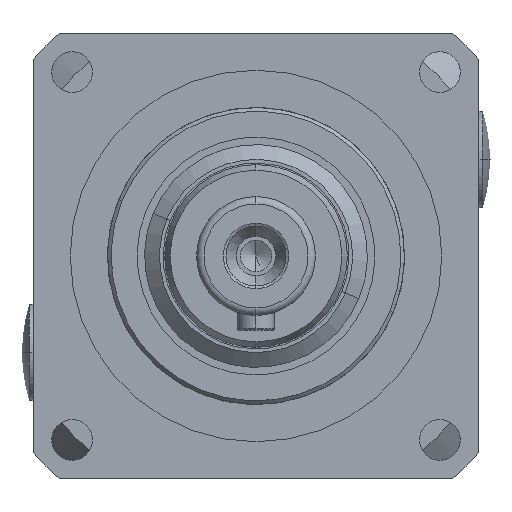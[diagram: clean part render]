
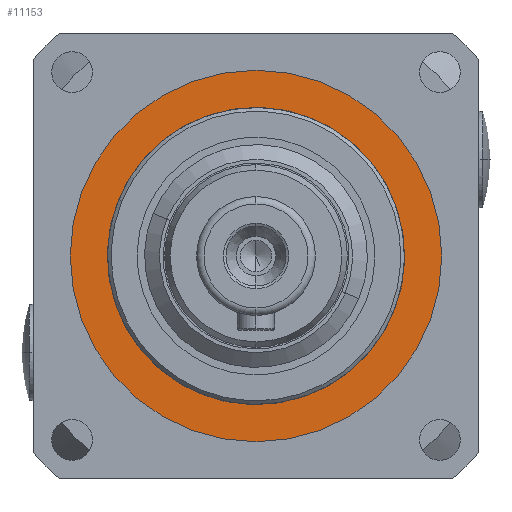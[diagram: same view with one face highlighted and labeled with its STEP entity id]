
A CAD part, left-side view. The second image highlights one B-rep face of the part: STEP entity #11153.
In plain terms, the highlighted planar face has unit normal (-1, 0, 0).
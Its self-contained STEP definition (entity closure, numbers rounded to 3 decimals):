
#76 = AXIS2_PLACEMENT_3D ( 'NONE', #8744, #1949, #9884 ) ;
#392 = CARTESIAN_POINT ( 'NONE',  ( -70., 0., 20. ) ) ;
#410 = EDGE_CURVE ( 'NONE', #13960, #9565, #5289, .T. ) ;
#480 = AXIS2_PLACEMENT_3D ( 'NONE', #14079, #7296, #509 ) ;
#509 = DIRECTION ( 'NONE',  ( 0., 0., 1. ) ) ;
#908 = AXIS2_PLACEMENT_3D ( 'NONE', #4883, #12805, #6029 ) ;
#1613 = PLANE ( 'NONE',  #5979 ) ;
#1808 = DIRECTION ( 'NONE',  ( -1., 0., 0. ) ) ;
#1949 = DIRECTION ( 'NONE',  ( -1., 0., 0. ) ) ;
#3743 = CIRCLE ( 'NONE', #480, 20. ) ;
#3914 = DIRECTION ( 'NONE',  ( 0., 0., 1. ) ) ;
#4382 = CIRCLE ( 'NONE', #76, 25. ) ;
#4410 = ORIENTED_EDGE ( 'NONE', *, *, #12492, .F. ) ;
#4883 = CARTESIAN_POINT ( 'NONE',  ( -70., 0., 0. ) ) ;
#5289 = CIRCLE ( 'NONE', #908, 25. ) ;
#5979 = AXIS2_PLACEMENT_3D ( 'NONE', #9564, #10693, #3914 ) ;
#6029 = DIRECTION ( 'NONE',  ( 0., 0., 1. ) ) ;
#7039 = ORIENTED_EDGE ( 'NONE', *, *, #410, .T. ) ;
#7122 = ORIENTED_EDGE ( 'NONE', *, *, #9600, .T. ) ;
#7296 = DIRECTION ( 'NONE',  ( -1., 0., 0. ) ) ;
#7489 = VERTEX_POINT ( 'NONE', #392 ) ;
#8580 = EDGE_LOOP ( 'NONE', ( #12032, #4410 ) ) ;
#8615 = CARTESIAN_POINT ( 'NONE',  ( -70., 0., 0. ) ) ;
#8744 = CARTESIAN_POINT ( 'NONE',  ( -70., 0., 0. ) ) ;
#9564 = CARTESIAN_POINT ( 'NONE',  ( -70., 0., 0. ) ) ;
#9565 = VERTEX_POINT ( 'NONE', #10985 ) ;
#9600 = EDGE_CURVE ( 'NONE', #9565, #13960, #4382, .T. ) ;
#9754 = DIRECTION ( 'NONE',  ( 0., 0., 1. ) ) ;
#9772 = AXIS2_PLACEMENT_3D ( 'NONE', #8615, #1808, #9754 ) ;
#9884 = DIRECTION ( 'NONE',  ( 0., 0., 1. ) ) ;
#10022 = VERTEX_POINT ( 'NONE', #10825 ) ;
#10209 = CIRCLE ( 'NONE', #9772, 20. ) ;
#10693 = DIRECTION ( 'NONE',  ( -1., 0., 0. ) ) ;
#10825 = CARTESIAN_POINT ( 'NONE',  ( -70., 0., -20. ) ) ;
#10826 = CARTESIAN_POINT ( 'NONE',  ( -70., 0., -25. ) ) ;
#10985 = CARTESIAN_POINT ( 'NONE',  ( -70., 0., 25. ) ) ;
#11153 = ADVANCED_FACE ( 'NONE', ( #13942, #14285 ), #1613, .T. ) ;
#11237 = EDGE_CURVE ( 'NONE', #7489, #10022, #10209, .T. ) ;
#12032 = ORIENTED_EDGE ( 'NONE', *, *, #11237, .F. ) ;
#12210 = EDGE_LOOP ( 'NONE', ( #7039, #7122 ) ) ;
#12492 = EDGE_CURVE ( 'NONE', #10022, #7489, #3743, .T. ) ;
#12805 = DIRECTION ( 'NONE',  ( -1., 0., 0. ) ) ;
#13942 = FACE_BOUND ( 'NONE', #8580, .T. ) ;
#13960 = VERTEX_POINT ( 'NONE', #10826 ) ;
#14079 = CARTESIAN_POINT ( 'NONE',  ( -70., 0., 0. ) ) ;
#14285 = FACE_OUTER_BOUND ( 'NONE', #12210, .T. ) ;
